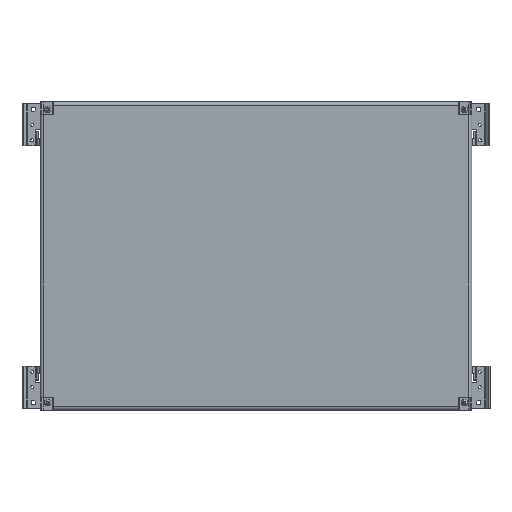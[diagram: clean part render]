
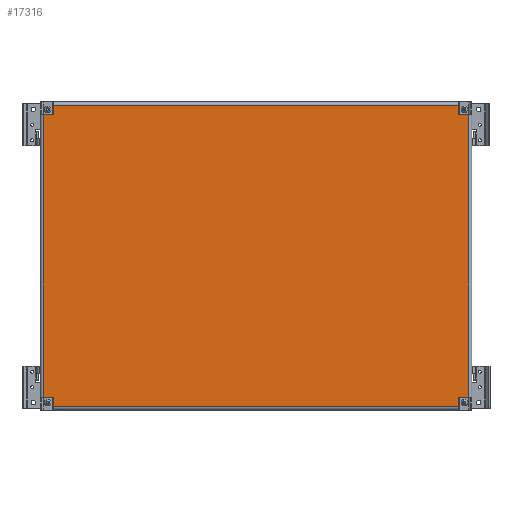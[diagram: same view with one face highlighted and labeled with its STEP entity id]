
A CAD part, top view. The second image highlights one B-rep face of the part: STEP entity #17316.
In plain terms, the highlighted planar face has unit normal (0, 0, 1).
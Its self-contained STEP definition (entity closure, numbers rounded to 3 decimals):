
#653 = AXIS2_PLACEMENT_3D ( 'NONE', #1548, #4230, #16902 ) ;
#1218 = VERTEX_POINT ( 'NONE', #11782 ) ;
#1548 = CARTESIAN_POINT ( 'NONE',  ( -329.5, -229.5, 0. ) ) ;
#2295 = AXIS2_PLACEMENT_3D ( 'NONE', #25944, #35382, #23055 ) ;
#2408 = ORIENTED_EDGE ( 'NONE', *, *, #34427, .T. ) ;
#2466 = LINE ( 'NONE', #5776, #11499 ) ;
#2734 = LINE ( 'NONE', #36790, #8551 ) ;
#2738 = VERTEX_POINT ( 'NONE', #2935 ) ;
#2803 = DIRECTION ( 'NONE',  ( 1., 0., 0. ) ) ;
#2844 = DIRECTION ( 'NONE',  ( 0., 0., -1. ) ) ;
#2935 = CARTESIAN_POINT ( 'NONE',  ( -344.5, 228.5, 0. ) ) ;
#3379 = CARTESIAN_POINT ( 'NONE',  ( 329.5, 229.5, 0. ) ) ;
#3677 = DIRECTION ( 'NONE',  ( 1., 0., 0. ) ) ;
#3867 = ORIENTED_EDGE ( 'NONE', *, *, #5870, .F. ) ;
#4230 = DIRECTION ( 'NONE',  ( 0., 0., -1. ) ) ;
#4700 = VERTEX_POINT ( 'NONE', #7088 ) ;
#4847 = CARTESIAN_POINT ( 'NONE',  ( -328.5, -244.5, 0. ) ) ;
#5653 = VERTEX_POINT ( 'NONE', #13454 ) ;
#5730 = VERTEX_POINT ( 'NONE', #9700 ) ;
#5776 = CARTESIAN_POINT ( 'NONE',  ( 344.5, -228.5, 0. ) ) ;
#5870 = EDGE_CURVE ( 'NONE', #5653, #17538, #20297, .T. ) ;
#6403 = VERTEX_POINT ( 'NONE', #13258 ) ;
#6449 = DIRECTION ( 'NONE',  ( 0., -1., 0. ) ) ;
#6555 = DIRECTION ( 'NONE',  ( -1., 0., 0. ) ) ;
#6667 = EDGE_CURVE ( 'NONE', #8173, #16921, #2466, .T. ) ;
#6728 = CARTESIAN_POINT ( 'NONE',  ( 349.5, 228.5, 0. ) ) ;
#7088 = CARTESIAN_POINT ( 'NONE',  ( -329.5, 228.5, 0. ) ) ;
#7253 = CARTESIAN_POINT ( 'NONE',  ( -328.5, -229.5, 0. ) ) ;
#7497 = VERTEX_POINT ( 'NONE', #39653 ) ;
#8173 = VERTEX_POINT ( 'NONE', #35548 ) ;
#8387 = CIRCLE ( 'NONE', #36723, 1. ) ;
#8551 = VECTOR ( 'NONE', #34499, 1000. ) ;
#8789 = EDGE_CURVE ( 'NONE', #1218, #4700, #26053, .T. ) ;
#8887 = LINE ( 'NONE', #12231, #32898 ) ;
#9234 = EDGE_CURVE ( 'NONE', #34559, #6403, #30410, .T. ) ;
#9633 = VECTOR ( 'NONE', #31226, 1000. ) ;
#9700 = CARTESIAN_POINT ( 'NONE',  ( -344.5, -228.5, 0. ) ) ;
#9809 = DIRECTION ( 'NONE',  ( 0., 1., 0. ) ) ;
#9813 = LINE ( 'NONE', #6728, #27091 ) ;
#10328 = EDGE_CURVE ( 'NONE', #34559, #14048, #23801, .T. ) ;
#10995 = CIRCLE ( 'NONE', #33416, 1. ) ;
#11136 = EDGE_LOOP ( 'NONE', ( #26471, #25788, #11930, #26991, #28662, #16307, #39899, #28183, #3867, #36380, #29380, #16158, #11485, #12612, #15666, #2408 ) ) ;
#11201 = LINE ( 'NONE', #14342, #20998 ) ;
#11408 = DIRECTION ( 'NONE',  ( 1., 0., 0. ) ) ;
#11485 = ORIENTED_EDGE ( 'NONE', *, *, #20656, .F. ) ;
#11499 = VECTOR ( 'NONE', #18612, 1000. ) ;
#11755 = VERTEX_POINT ( 'NONE', #32277 ) ;
#11782 = CARTESIAN_POINT ( 'NONE',  ( -328.5, 229.5, 0. ) ) ;
#11930 = ORIENTED_EDGE ( 'NONE', *, *, #24621, .F. ) ;
#12165 = VERTEX_POINT ( 'NONE', #18164 ) ;
#12231 = CARTESIAN_POINT ( 'NONE',  ( 328.5, 244.5, 0. ) ) ;
#12525 = VECTOR ( 'NONE', #6449, 1000. ) ;
#12589 = CARTESIAN_POINT ( 'NONE',  ( -329.5, 229.5, 0. ) ) ;
#12612 = ORIENTED_EDGE ( 'NONE', *, *, #20776, .T. ) ;
#12777 = CARTESIAN_POINT ( 'NONE',  ( -349.5, -228.5, 0. ) ) ;
#13258 = CARTESIAN_POINT ( 'NONE',  ( 328.5, -244.5, 0. ) ) ;
#13454 = CARTESIAN_POINT ( 'NONE',  ( 328.5, 244.5, 0. ) ) ;
#13526 = DIRECTION ( 'NONE',  ( 0., 1., 0. ) ) ;
#13542 = AXIS2_PLACEMENT_3D ( 'NONE', #12589, #22708, #3677 ) ;
#13922 = CARTESIAN_POINT ( 'NONE',  ( 328.5, 229.5, 0. ) ) ;
#14048 = VERTEX_POINT ( 'NONE', #7253 ) ;
#14291 = CARTESIAN_POINT ( 'NONE',  ( 328.5, 249.5, 0. ) ) ;
#14342 = CARTESIAN_POINT ( 'NONE',  ( 349.5, -228.5, 0. ) ) ;
#14947 = VECTOR ( 'NONE', #6555, 1000. ) ;
#15666 = ORIENTED_EDGE ( 'NONE', *, *, #15722, .F. ) ;
#15722 = EDGE_CURVE ( 'NONE', #39578, #5730, #34034, .T. ) ;
#16158 = ORIENTED_EDGE ( 'NONE', *, *, #8789, .T. ) ;
#16307 = ORIENTED_EDGE ( 'NONE', *, *, #6667, .T. ) ;
#16902 = DIRECTION ( 'NONE',  ( 1., 0., 0. ) ) ;
#16921 = VERTEX_POINT ( 'NONE', #27272 ) ;
#17055 = CARTESIAN_POINT ( 'NONE',  ( -328.5, -249.5, 0. ) ) ;
#17316 = ADVANCED_FACE ( 'NONE', ( #26560 ), #32949, .T. ) ;
#17538 = VERTEX_POINT ( 'NONE', #13922 ) ;
#18164 = CARTESIAN_POINT ( 'NONE',  ( 329.5, -228.5, 0. ) ) ;
#18612 = DIRECTION ( 'NONE',  ( 0., 1., 0. ) ) ;
#18678 = LINE ( 'NONE', #22565, #9633 ) ;
#19072 = CARTESIAN_POINT ( 'NONE',  ( -344.5, 228.5, 0. ) ) ;
#19148 = CARTESIAN_POINT ( 'NONE',  ( -328.5, 249.5, 0. ) ) ;
#20297 = LINE ( 'NONE', #14291, #33159 ) ;
#20656 = EDGE_CURVE ( 'NONE', #2738, #4700, #2734, .T. ) ;
#20776 = EDGE_CURVE ( 'NONE', #2738, #5730, #40686, .T. ) ;
#20863 = VECTOR ( 'NONE', #11408, 1000. ) ;
#20998 = VECTOR ( 'NONE', #36326, 1000. ) ;
#21821 = EDGE_CURVE ( 'NONE', #11755, #16921, #9813, .T. ) ;
#22380 = CARTESIAN_POINT ( 'NONE',  ( 328.5, -229.5, 0. ) ) ;
#22565 = CARTESIAN_POINT ( 'NONE',  ( 328.5, -249.5, 0. ) ) ;
#22708 = DIRECTION ( 'NONE',  ( 0., 0., -1. ) ) ;
#23055 = DIRECTION ( 'NONE',  ( 1., 0., 0. ) ) ;
#23801 = LINE ( 'NONE', #17055, #39322 ) ;
#24351 = CARTESIAN_POINT ( 'NONE',  ( 329.5, -229.5, 0. ) ) ;
#24621 = EDGE_CURVE ( 'NONE', #30600, #6403, #18678, .T. ) ;
#24804 = DIRECTION ( 'NONE',  ( -1., 0., 0. ) ) ;
#25450 = EDGE_CURVE ( 'NONE', #11755, #17538, #10995, .T. ) ;
#25489 = DIRECTION ( 'NONE',  ( 0., 0., -1. ) ) ;
#25788 = ORIENTED_EDGE ( 'NONE', *, *, #9234, .T. ) ;
#25944 = CARTESIAN_POINT ( 'NONE',  ( 0., 0., 0. ) ) ;
#26053 = CIRCLE ( 'NONE', #13542, 1. ) ;
#26471 = ORIENTED_EDGE ( 'NONE', *, *, #10328, .F. ) ;
#26560 = FACE_OUTER_BOUND ( 'NONE', #11136, .T. ) ;
#26837 = VECTOR ( 'NONE', #9809, 1000. ) ;
#26991 = ORIENTED_EDGE ( 'NONE', *, *, #32075, .T. ) ;
#27091 = VECTOR ( 'NONE', #2803, 1000. ) ;
#27272 = CARTESIAN_POINT ( 'NONE',  ( 344.5, 228.5, 0. ) ) ;
#28183 = ORIENTED_EDGE ( 'NONE', *, *, #25450, .T. ) ;
#28662 = ORIENTED_EDGE ( 'NONE', *, *, #33161, .F. ) ;
#29380 = ORIENTED_EDGE ( 'NONE', *, *, #32460, .F. ) ;
#30353 = DIRECTION ( 'NONE',  ( 1., 0., 0. ) ) ;
#30410 = LINE ( 'NONE', #30813, #20863 ) ;
#30600 = VERTEX_POINT ( 'NONE', #22380 ) ;
#30813 = CARTESIAN_POINT ( 'NONE',  ( -328.5, -244.5, 0. ) ) ;
#31226 = DIRECTION ( 'NONE',  ( 0., -1., 0. ) ) ;
#32075 = EDGE_CURVE ( 'NONE', #30600, #12165, #8387, .T. ) ;
#32277 = CARTESIAN_POINT ( 'NONE',  ( 329.5, 228.5, 0. ) ) ;
#32460 = EDGE_CURVE ( 'NONE', #1218, #7497, #34566, .T. ) ;
#32898 = VECTOR ( 'NONE', #24804, 1000. ) ;
#32949 = PLANE ( 'NONE',  #2295 ) ;
#33159 = VECTOR ( 'NONE', #38784, 1000. ) ;
#33161 = EDGE_CURVE ( 'NONE', #8173, #12165, #11201, .T. ) ;
#33416 = AXIS2_PLACEMENT_3D ( 'NONE', #3379, #25489, #38039 ) ;
#33694 = EDGE_CURVE ( 'NONE', #5653, #7497, #8887, .T. ) ;
#34034 = LINE ( 'NONE', #12777, #14947 ) ;
#34427 = EDGE_CURVE ( 'NONE', #39578, #14048, #38853, .T. ) ;
#34499 = DIRECTION ( 'NONE',  ( 1., 0., 0. ) ) ;
#34559 = VERTEX_POINT ( 'NONE', #4847 ) ;
#34566 = LINE ( 'NONE', #19148, #26837 ) ;
#35382 = DIRECTION ( 'NONE',  ( 0., 0., 1. ) ) ;
#35514 = CARTESIAN_POINT ( 'NONE',  ( -329.5, -228.5, 0. ) ) ;
#35548 = CARTESIAN_POINT ( 'NONE',  ( 344.5, -228.5, 0. ) ) ;
#36326 = DIRECTION ( 'NONE',  ( -1., 0., 0. ) ) ;
#36380 = ORIENTED_EDGE ( 'NONE', *, *, #33694, .T. ) ;
#36723 = AXIS2_PLACEMENT_3D ( 'NONE', #24351, #2844, #30353 ) ;
#36790 = CARTESIAN_POINT ( 'NONE',  ( -349.5, 228.5, 0. ) ) ;
#38039 = DIRECTION ( 'NONE',  ( 1., 0., 0. ) ) ;
#38784 = DIRECTION ( 'NONE',  ( 0., -1., 0. ) ) ;
#38853 = CIRCLE ( 'NONE', #653, 1. ) ;
#39322 = VECTOR ( 'NONE', #13526, 1000. ) ;
#39578 = VERTEX_POINT ( 'NONE', #35514 ) ;
#39653 = CARTESIAN_POINT ( 'NONE',  ( -328.5, 244.5, 0. ) ) ;
#39899 = ORIENTED_EDGE ( 'NONE', *, *, #21821, .F. ) ;
#40686 = LINE ( 'NONE', #19072, #12525 ) ;
